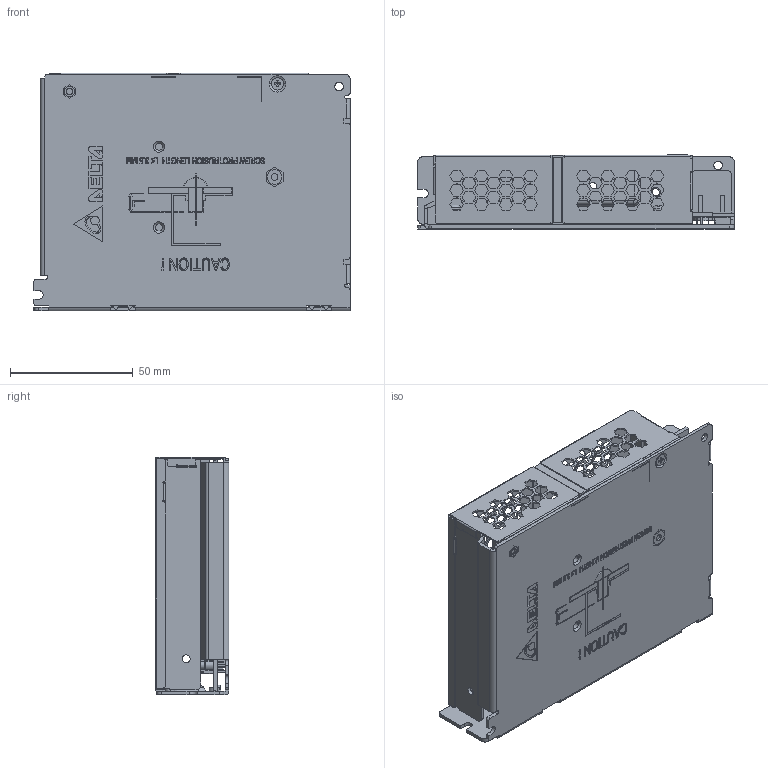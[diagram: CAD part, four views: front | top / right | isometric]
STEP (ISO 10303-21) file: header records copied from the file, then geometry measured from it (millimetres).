
FILE_DESCRIPTION((''),'2;1');
FILE_NAME('PMH-12V100WCLU_ASM','2018-03-09T',('Kidsada.Kohk'),(''),'PRO/ENGINEER BY PARAMETRIC TECHNOLOGY CORPORATION, 2010180','PRO/ENGINEER BY PARAMETRIC TECHNOLOGY CORPORATION, 2010180','');
FILE_SCHEMA(('CONFIG_CONTROL_DESIGN','SHAPE_APPEARANCE_LAYERS_GROUPS'));
Products named in the file (16): 330336890000_A_BODY; 330336890000_A_STUD6-32; 330336890000_A_STUDM3; 330336890000_ASM; 330336860000; PWB_MAINBOARD; 307049867W; EE_VR131; EE_LED370; 312330170000_LED-HOLDER; ASSY_PWB-MAINBOARD_ASM; 3103300600_6-32; 3105469000; 3100300700; 3263670900; PMH-12V100WCLU_ASM
Assembly tree (15 placements, depth 3):
  PMH-12V100WCLU_ASM
    330336890000_ASM
      330336890000_A_BODY
      330336890000_A_STUD6-32
      330336890000_A_STUDM3
    330336860000
    ASSY_PWB-MAINBOARD_ASM
      PWB_MAINBOARD
      307049867W
      EE_VR131
      EE_LED370
      312330170000_LED-HOLDER
    3103300600_6-32
    3105469000
    3100300700
    3263670900
Bounding box: 129 x 30.1 x 97 mm (x, y, z)
Volume: 64490 mm3; surface area: 96374.8 mm2
Topology: 13 solids, 13 shells, 4962 faces, 13860 edges, 8781 vertices
Faces by surface type: plane 3855, cylinder 450, extrusion 376, bspline 216, cone 41, torus 22, sphere 2
Entity records: 208269 total; most frequent: CARTESIAN_POINT 36365, ORIENTED_EDGE 27712, DIRECTION 23269, PRESENTATION_STYLE_ASSIGNMENT 14060, EDGE_CURVE 13856, STYLED_ITEM 13783, CURVE_STYLE 13644, VECTOR 12231
